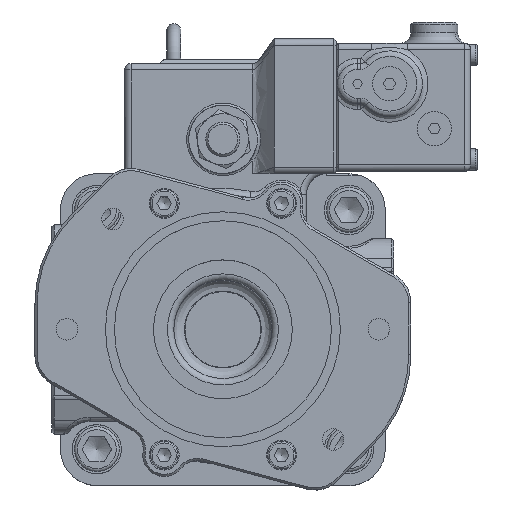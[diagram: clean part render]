
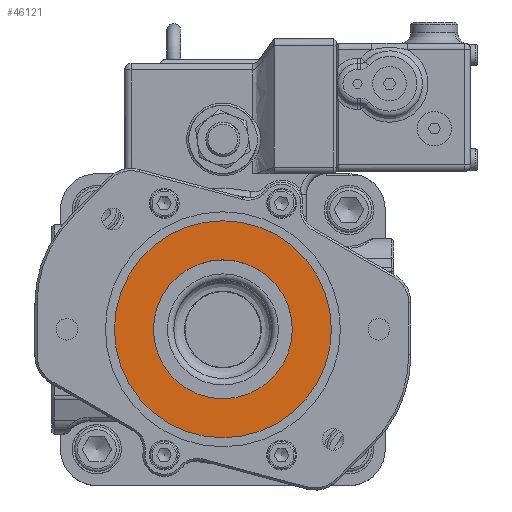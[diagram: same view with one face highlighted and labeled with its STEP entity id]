
A CAD part, top view. The second image highlights one B-rep face of the part: STEP entity #46121.
In plain terms, the highlighted planar face has unit normal (0, 0, 1).
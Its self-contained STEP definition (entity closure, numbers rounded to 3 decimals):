
#46039=CARTESIAN_POINT('',(32.5,0.,262.7));
#46040=VERTEX_POINT('',#46039);
#46041=CARTESIAN_POINT('',(0.,0.,262.7));
#46042=DIRECTION('',(0.0,0.0,1.0));
#46043=DIRECTION('',(1.0,0.0,0.0));
#46044=AXIS2_PLACEMENT_3D('',#46041,#46042,#46043);
#46045=CIRCLE('',#46044,32.5);
#46046=EDGE_CURVE('',#46040,#46040,#46045,.T.);
#46102=CARTESIAN_POINT('',(0.,0.,262.7));
#46103=DIRECTION('',(0.0,0.0,-1.0));
#46104=DIRECTION('',(-1.0,0.0,0.0));
#46105=AXIS2_PLACEMENT_3D('',#46102,#46103,#46104);
#46106=PLANE('',#46105);
#46107=CARTESIAN_POINT('',(50.8,0.,262.7));
#46108=VERTEX_POINT('',#46107);
#46109=CARTESIAN_POINT('',(0.,0.,262.7));
#46110=DIRECTION('',(0.0,0.0,1.0));
#46111=DIRECTION('',(-1.0,0.0,0.0));
#46112=AXIS2_PLACEMENT_3D('',#46109,#46110,#46111);
#46113=CIRCLE('',#46112,50.8);
#46114=EDGE_CURVE('',#46108,#46108,#46113,.T.);
#46115=ORIENTED_EDGE('',*,*,#46114,.T.);
#46116=EDGE_LOOP('',(#46115));
#46117=FACE_OUTER_BOUND('',#46116,.T.);
#46118=ORIENTED_EDGE('',*,*,#46046,.F.);
#46119=EDGE_LOOP('',(#46118));
#46120=FACE_BOUND('',#46119,.T.);
#46121=ADVANCED_FACE('',(#46117,#46120),#46106,.F.);
